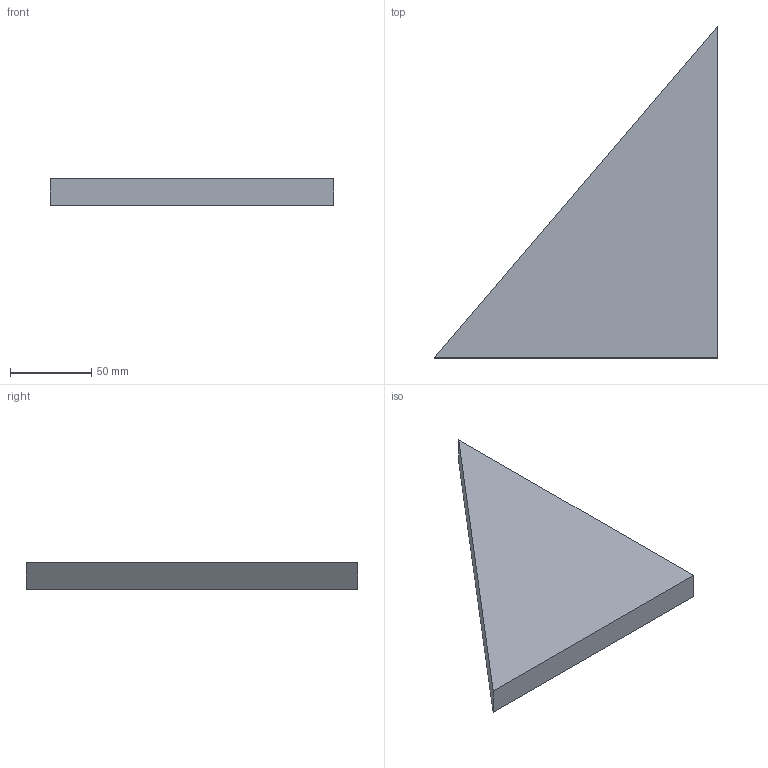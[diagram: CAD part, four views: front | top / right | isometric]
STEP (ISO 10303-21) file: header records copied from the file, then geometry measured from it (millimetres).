
FILE_DESCRIPTION(('Open CASCADE Model'),'2;1');
FILE_NAME('Open CASCADE Shape Model','2026-10-19T10:09:20',('Author'),( 'Open CASCADE'),'Open CASCADE STEP processor 8.0','Open CASCADE 8.0' ,'Unknown');
FILE_SCHEMA(('AUTOMOTIVE_DESIGN { 1 0 10303 214 1 1 1 1 }'));
Length unit declared in the file: millimetre
Products named in the file (1): CORTE_ALETA_3_304_t16_P05 62
Bounding box: 174 x 204 x 16 mm (x, y, z)
Volume: 283968 mm3; surface area: 45834 mm2
Topology: 1 solids, 1 shells, 5 faces, 9 edges, 6 vertices
Faces by surface type: plane 5
Entity records: 250 total; most frequent: CARTESIAN_POINT 39, DIRECTION 39, LINE 27, VECTOR 27, ORIENTED_EDGE 18, PCURVE 18, DEFINITIONAL_REPRESENTATION 18, EDGE_CURVE 9
